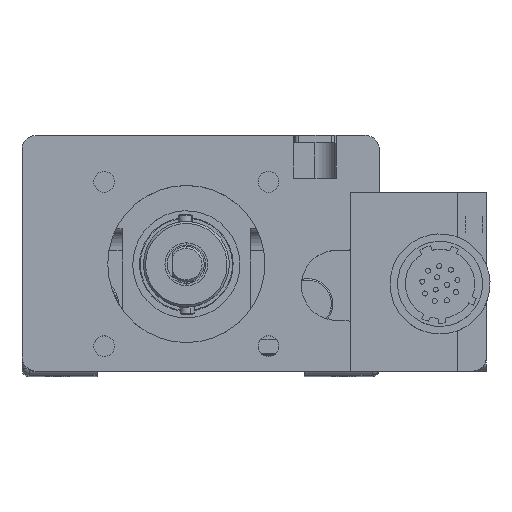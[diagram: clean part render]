
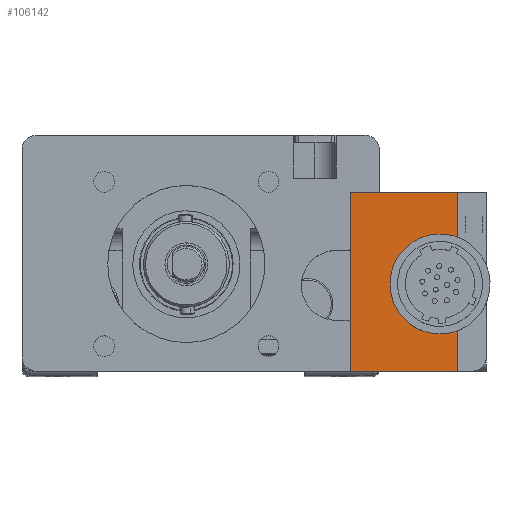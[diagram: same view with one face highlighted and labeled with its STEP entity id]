
A CAD part, top view. The second image highlights one B-rep face of the part: STEP entity #106142.
In plain terms, the highlighted planar face has unit normal (0, 0, 1).
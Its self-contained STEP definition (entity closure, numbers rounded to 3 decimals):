
#304 = LINE ( 'NONE', #87570, #36211 ) ;
#1543 = VECTOR ( 'NONE', #85726, 1000. ) ;
#3825 = ORIENTED_EDGE ( 'NONE', *, *, #42182, .T. ) ;
#4094 = ORIENTED_EDGE ( 'NONE', *, *, #72783, .F. ) ;
#4264 = AXIS2_PLACEMENT_3D ( 'NONE', #54517, #55794, #5453 ) ;
#4375 = FACE_OUTER_BOUND ( 'NONE', #125900, .T. ) ;
#5453 = DIRECTION ( 'NONE',  ( 0., -1., 0. ) ) ;
#7203 = ORIENTED_EDGE ( 'NONE', *, *, #57467, .T. ) ;
#8720 = DIRECTION ( 'NONE',  ( -1., 0., 0. ) ) ;
#9131 = DIRECTION ( 'NONE',  ( 0., 0., 1. ) ) ;
#9597 = VERTEX_POINT ( 'NONE', #42707 ) ;
#10155 = ORIENTED_EDGE ( 'NONE', *, *, #36559, .T. ) ;
#10771 = CARTESIAN_POINT ( 'NONE',  ( 36., 13.75, 98. ) ) ;
#12022 = CARTESIAN_POINT ( 'NONE',  ( 21., 13.75, 98. ) ) ;
#12413 = CIRCLE ( 'NONE', #4264, 4.9 ) ;
#14798 = ORIENTED_EDGE ( 'NONE', *, *, #19003, .F. ) ;
#14974 = LINE ( 'NONE', #90852, #68982 ) ;
#15539 = VERTEX_POINT ( 'NONE', #47030 ) ;
#17631 = CARTESIAN_POINT ( 'NONE',  ( 38., 13.75, 98. ) ) ;
#18052 = CARTESIAN_POINT ( 'NONE',  ( 35., -5.15, 98. ) ) ;
#18100 = LINE ( 'NONE', #85024, #107474 ) ;
#19003 = EDGE_CURVE ( 'NONE', #80375, #80072, #72237, .T. ) ;
#19922 = VERTEX_POINT ( 'NONE', #10771 ) ;
#20611 = EDGE_CURVE ( 'NONE', #48990, #90929, #14974, .T. ) ;
#26111 = ORIENTED_EDGE ( 'NONE', *, *, #87373, .F. ) ;
#30115 = ORIENTED_EDGE ( 'NONE', *, *, #72670, .F. ) ;
#32846 = DIRECTION ( 'NONE',  ( 0., -1., 0. ) ) ;
#33015 = DIRECTION ( 'NONE',  ( 0., 1., 0. ) ) ;
#35320 = DIRECTION ( 'NONE',  ( -1., 0., 0. ) ) ;
#36211 = VECTOR ( 'NONE', #76731, 1000. ) ;
#36559 = EDGE_CURVE ( 'NONE', #19922, #61630, #124625, .T. ) ;
#38162 = VECTOR ( 'NONE', #97777, 1000. ) ;
#39769 = CARTESIAN_POINT ( 'NONE',  ( 36., 13.75, 98. ) ) ;
#42182 = EDGE_CURVE ( 'NONE', #48990, #80072, #61624, .T. ) ;
#42707 = CARTESIAN_POINT ( 'NONE',  ( 36., 6.65, 98. ) ) ;
#47030 = CARTESIAN_POINT ( 'NONE',  ( 33.5, 5.65, 98. ) ) ;
#48990 = VERTEX_POINT ( 'NONE', #109736 ) ;
#53133 = CARTESIAN_POINT ( 'NONE',  ( 33.5, -4.15, 98. ) ) ;
#54517 = CARTESIAN_POINT ( 'NONE',  ( 33.5, 0.75, 98. ) ) ;
#55794 = DIRECTION ( 'NONE',  ( 0., 0., 1. ) ) ;
#56503 = CARTESIAN_POINT ( 'NONE',  ( 33.5, -4.15, 98. ) ) ;
#56916 = CARTESIAN_POINT ( 'NONE',  ( 35., 6.65, 98. ) ) ;
#57086 = LINE ( 'NONE', #114373, #1543 ) ;
#57467 = EDGE_CURVE ( 'NONE', #84746, #9597, #123298, .T. ) ;
#58182 = EDGE_CURVE ( 'NONE', #61630, #96802, #57086, .T. ) ;
#59003 = CARTESIAN_POINT ( 'NONE',  ( 36., -11.25, 98. ) ) ;
#61291 = CARTESIAN_POINT ( 'NONE',  ( 35., 5.65, 98. ) ) ;
#61624 = CIRCLE ( 'NONE', #71804, 1. ) ;
#61630 = VERTEX_POINT ( 'NONE', #12022 ) ;
#62401 = VECTOR ( 'NONE', #8720, 1000. ) ;
#64553 = DIRECTION ( 'NONE',  ( 0., 1., 0. ) ) ;
#67096 = DIRECTION ( 'NONE',  ( 0., 0., 1. ) ) ;
#68982 = VECTOR ( 'NONE', #32846, 1000. ) ;
#71804 = AXIS2_PLACEMENT_3D ( 'NONE', #18052, #9131, #96413 ) ;
#72237 = LINE ( 'NONE', #53133, #111204 ) ;
#72670 = EDGE_CURVE ( 'NONE', #90929, #96802, #18100, .T. ) ;
#72783 = EDGE_CURVE ( 'NONE', #84746, #15539, #304, .T. ) ;
#74829 = ORIENTED_EDGE ( 'NONE', *, *, #58182, .T. ) ;
#76731 = DIRECTION ( 'NONE',  ( -1., 0., 0. ) ) ;
#80072 = VERTEX_POINT ( 'NONE', #83586 ) ;
#80375 = VERTEX_POINT ( 'NONE', #56503 ) ;
#83586 = CARTESIAN_POINT ( 'NONE',  ( 35., -4.15, 98. ) ) ;
#84746 = VERTEX_POINT ( 'NONE', #61291 ) ;
#85024 = CARTESIAN_POINT ( 'NONE',  ( 38., -11.25, 98. ) ) ;
#85726 = DIRECTION ( 'NONE',  ( 0., -1., 0. ) ) ;
#87373 = EDGE_CURVE ( 'NONE', #15539, #80375, #12413, .T. ) ;
#87570 = CARTESIAN_POINT ( 'NONE',  ( 33.5, 5.65, 98. ) ) ;
#88856 = AXIS2_PLACEMENT_3D ( 'NONE', #56916, #67096, #64553 ) ;
#90852 = CARTESIAN_POINT ( 'NONE',  ( 36., 13.75, 98. ) ) ;
#90929 = VERTEX_POINT ( 'NONE', #59003 ) ;
#91644 = DIRECTION ( 'NONE',  ( 0., 0., -1. ) ) ;
#92869 = PLANE ( 'NONE',  #115100 ) ;
#94419 = ORIENTED_EDGE ( 'NONE', *, *, #109111, .F. ) ;
#96413 = DIRECTION ( 'NONE',  ( 0., 1., 0. ) ) ;
#96802 = VERTEX_POINT ( 'NONE', #107372 ) ;
#97777 = DIRECTION ( 'NONE',  ( 0., -1., 0. ) ) ;
#99759 = ORIENTED_EDGE ( 'NONE', *, *, #20611, .F. ) ;
#106142 = ADVANCED_FACE ( 'NONE', ( #4375 ), #92869, .F. ) ;
#107372 = CARTESIAN_POINT ( 'NONE',  ( 21., -11.25, 98. ) ) ;
#107474 = VECTOR ( 'NONE', #35320, 1000. ) ;
#109111 = EDGE_CURVE ( 'NONE', #19922, #9597, #116846, .T. ) ;
#109736 = CARTESIAN_POINT ( 'NONE',  ( 36., -5.15, 98. ) ) ;
#111073 = DIRECTION ( 'NONE',  ( 1., 0., 0. ) ) ;
#111204 = VECTOR ( 'NONE', #111073, 1000. ) ;
#114373 = CARTESIAN_POINT ( 'NONE',  ( 21., 13.75, 98. ) ) ;
#115100 = AXIS2_PLACEMENT_3D ( 'NONE', #122117, #91644, #33015 ) ;
#116846 = LINE ( 'NONE', #39769, #38162 ) ;
#122117 = CARTESIAN_POINT ( 'NONE',  ( 38., 13.75, 98. ) ) ;
#123298 = CIRCLE ( 'NONE', #88856, 1. ) ;
#124625 = LINE ( 'NONE', #17631, #62401 ) ;
#125900 = EDGE_LOOP ( 'NONE', ( #4094, #7203, #94419, #10155, #74829, #30115, #99759, #3825, #14798, #26111 ) ) ;
